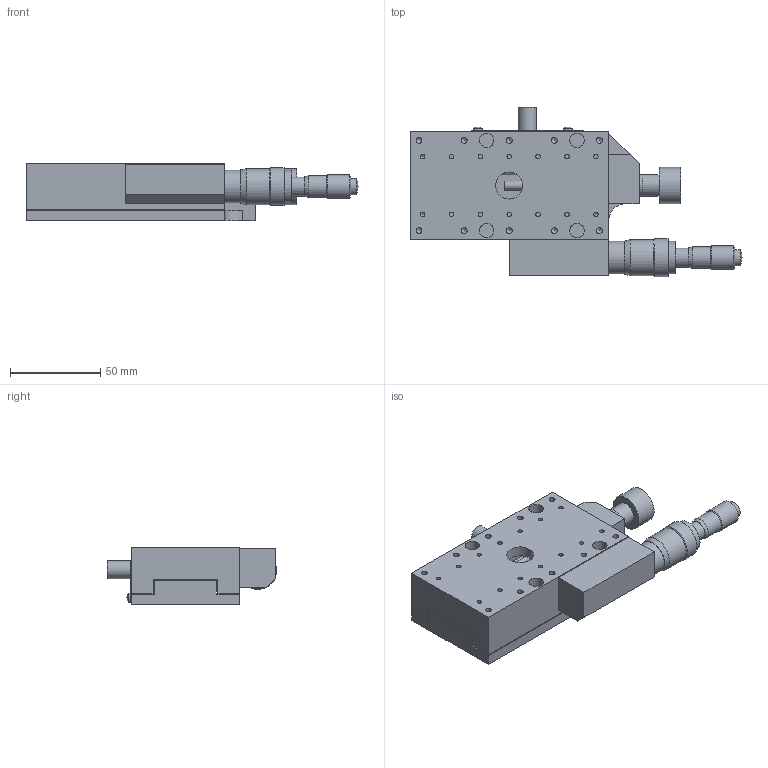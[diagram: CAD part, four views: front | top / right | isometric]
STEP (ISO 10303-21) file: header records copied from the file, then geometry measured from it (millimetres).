
FILE_DESCRIPTION( ( 'STEP AP214' ), '1' );
FILE_NAME( 'C:/Project/3D_B12-60B-配布-070508.stp', '2007-05-08T10:42:34', ( ' ' ), ( ' ' ), 'XStep 1.0', ' ', ' ' );
FILE_SCHEMA( ( 'automotive_design' ) );
Length unit declared in the file: millimetre
Products named in the file (4): 1; 2; 3; 4
Bounding box: 184 x 93.8 x 32 mm (x, y, z)
Volume: 213954.5 mm3; surface area: 68172.4 mm2
Topology: 4 solids, 4 shells, 208 faces, 522 edges, 341 vertices
Faces by surface type: cylinder 95, plane 89, cone 19, sphere 5
Full cylindrical faces by diameter (mm): 2.5 x15, 3 x1, 3.01 x1, 3.3 x20, 4 x1, 4.5 x10, 5 x8, 8 x14, 9 x1, 9.5 x1, 10 x1, 10.5 x2, 12 x3, 13 x1, 15 x1, 18 x2, 20 x2, 21 x1
Entity records: 7187 total; most frequent: DIRECTION 970, CARTESIAN_POINT 899, ORIENTED_EDGE 730, EDGE_LOOP 401, AXIS2_PLACEMENT_3D 395, EDGE_CURVE 365, VERTEX_POINT 308, FACE_OUTER_BOUND 293
